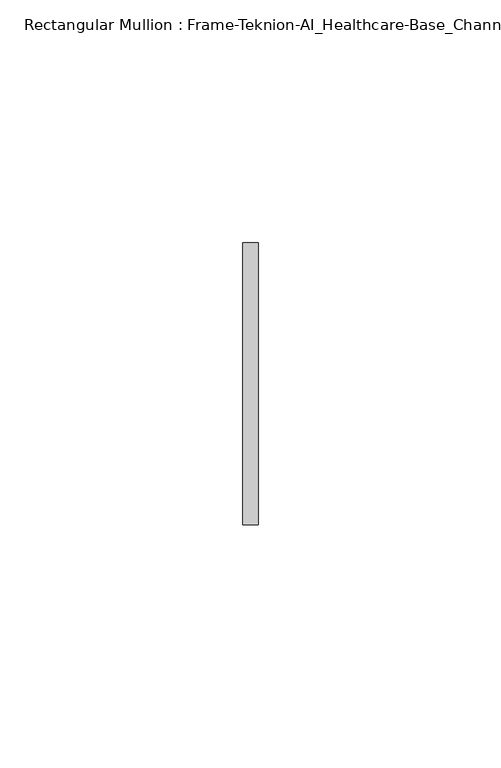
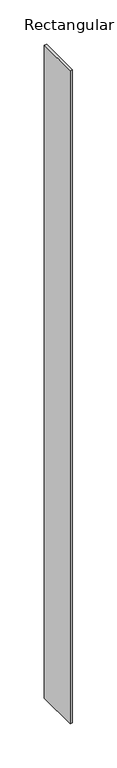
"""IFC4 building model written with IfcOpenShell, lengths in millimetres: member geometry, Rectangular Mullion : Frame-Teknion-AI_Healthcare-Base_Channel."""

from ifc_helpers import new_model, si_unit, frame, origin, place, context, project, spatial, polyline, outline, extrude, source, transform, mapped, element, save


def rectangular_mullion_frame_teknion_ai_healthcare_base_channel_6bc1e52c(model_context):
    return source(origin(), model_context, "Body", "SweptSolid", [
        extrude(outline(polyline([(0.0, 29.0214844), (0.0, -29.0214844), (-3.175, -29.0214844), (-3.175, 29.0214844), (0.0, 29.0214844)])), frame((0.0, 0.0, -899.7316603), z_axis=(0.0, 0.0, 1.0), x_axis=(1.0, 0.0, 0.0)), (0.0, 0.0, 1.0), 899.7316603),
    ])


if __name__ == "__main__":
    model = new_model("IFC4")
    model_context = context("Model", 3, world=origin())
    ifc_project = project(units=[si_unit("LENGTHUNIT", "METRE", prefix="MILLI")], contexts=[model_context])
    site = spatial("IfcSite", under=ifc_project)
    building = spatial("IfcBuilding", under=site)
    placement = place(None, origin())
    rectangular_mullion_frame_teknion_ai_healthcare_base_channel_shape = rectangular_mullion_frame_teknion_ai_healthcare_base_channel_6bc1e52c(model_context)
    element("IfcMember", 1, ObjectType="Rectangular Mullion : Frame-Teknion-AI_Healthcare-Base_Channel", at=placement, inside=building, context=model_context, shape_type="MappedRepresentation", body=[
        mapped(rectangular_mullion_frame_teknion_ai_healthcare_base_channel_shape, transform((0.0, 0.0, 0.0), x_axis=(1.0, 0.0, 0.0), y_axis=(0.0, 1.0, 0.0), z_axis=(0.0, 0.0, 1.0))),
    ])
    save(model, "model.ifc")
